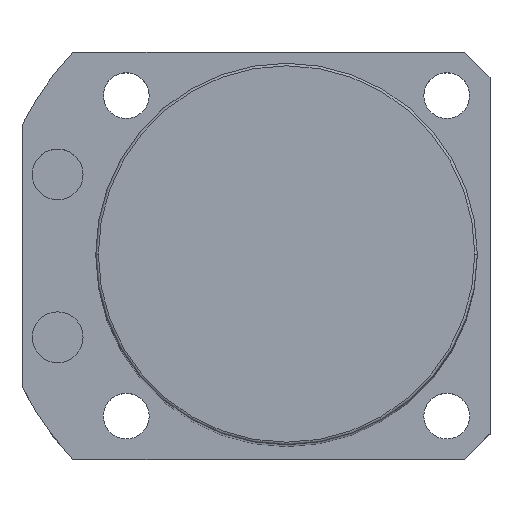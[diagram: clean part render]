
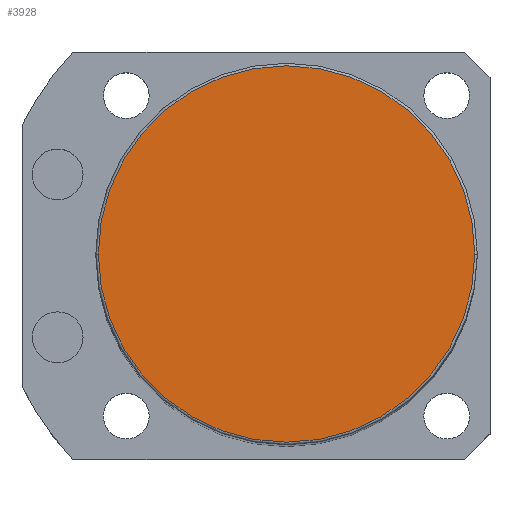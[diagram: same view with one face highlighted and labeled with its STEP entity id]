
A CAD part, top view. The second image highlights one B-rep face of the part: STEP entity #3928.
In plain terms, the highlighted planar face has unit normal (0, 0, 1).
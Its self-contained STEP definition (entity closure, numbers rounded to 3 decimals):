
#83 = CIRCLE ( 'NONE', #2054, 37. ) ;
#359 = DIRECTION ( 'NONE',  ( 1., 0., 0. ) ) ;
#467 = CIRCLE ( 'NONE', #5400, 37. ) ;
#640 = EDGE_LOOP ( 'NONE', ( #1539, #3962 ) ) ;
#1413 = EDGE_CURVE ( 'NONE', #2518, #3788, #467, .T. ) ;
#1539 = ORIENTED_EDGE ( 'NONE', *, *, #1890, .T. ) ;
#1554 = DIRECTION ( 'NONE',  ( 0., 0., 1. ) ) ;
#1890 = EDGE_CURVE ( 'NONE', #3788, #2518, #83, .T. ) ;
#2027 = CARTESIAN_POINT ( 'NONE',  ( 0., 0., 225.5 ) ) ;
#2054 = AXIS2_PLACEMENT_3D ( 'NONE', #4996, #3470, #359 ) ;
#2073 = FACE_OUTER_BOUND ( 'NONE', #640, .T. ) ;
#2518 = VERTEX_POINT ( 'NONE', #6174 ) ;
#3042 = DIRECTION ( 'NONE',  ( 1., 0., 0. ) ) ;
#3159 = CARTESIAN_POINT ( 'NONE',  ( 37., 0., 225.5 ) ) ;
#3204 = PLANE ( 'NONE',  #3413 ) ;
#3413 = AXIS2_PLACEMENT_3D ( 'NONE', #6302, #5289, #4193 ) ;
#3470 = DIRECTION ( 'NONE',  ( 0., 0., 1. ) ) ;
#3788 = VERTEX_POINT ( 'NONE', #3159 ) ;
#3928 = ADVANCED_FACE ( 'NONE', ( #2073 ), #3204, .T. ) ;
#3962 = ORIENTED_EDGE ( 'NONE', *, *, #1413, .T. ) ;
#4193 = DIRECTION ( 'NONE',  ( 1., 0., 0. ) ) ;
#4996 = CARTESIAN_POINT ( 'NONE',  ( 0., 0., 225.5 ) ) ;
#5289 = DIRECTION ( 'NONE',  ( 0., 0., 1. ) ) ;
#5400 = AXIS2_PLACEMENT_3D ( 'NONE', #2027, #1554, #3042 ) ;
#6174 = CARTESIAN_POINT ( 'NONE',  ( -37., 0., 225.5 ) ) ;
#6302 = CARTESIAN_POINT ( 'NONE',  ( 0., 0., 225.5 ) ) ;
